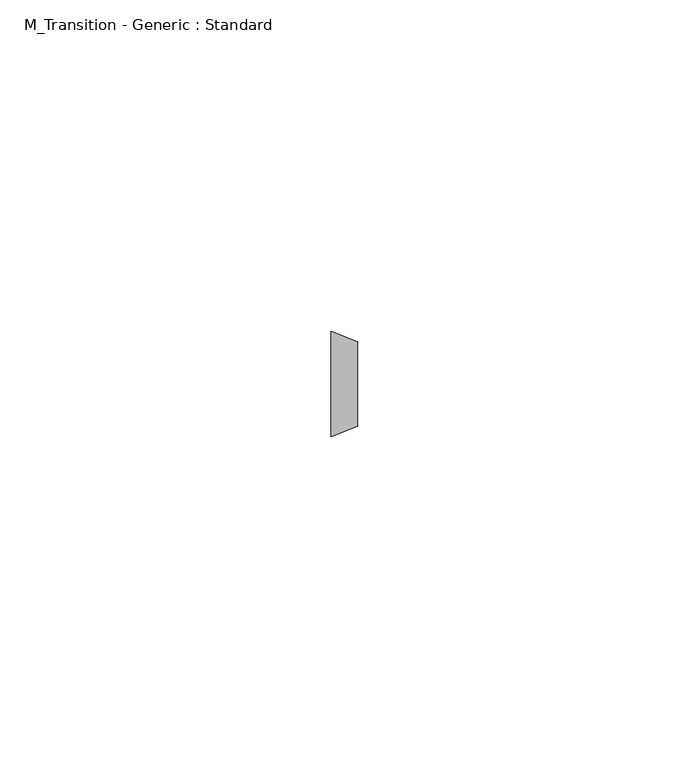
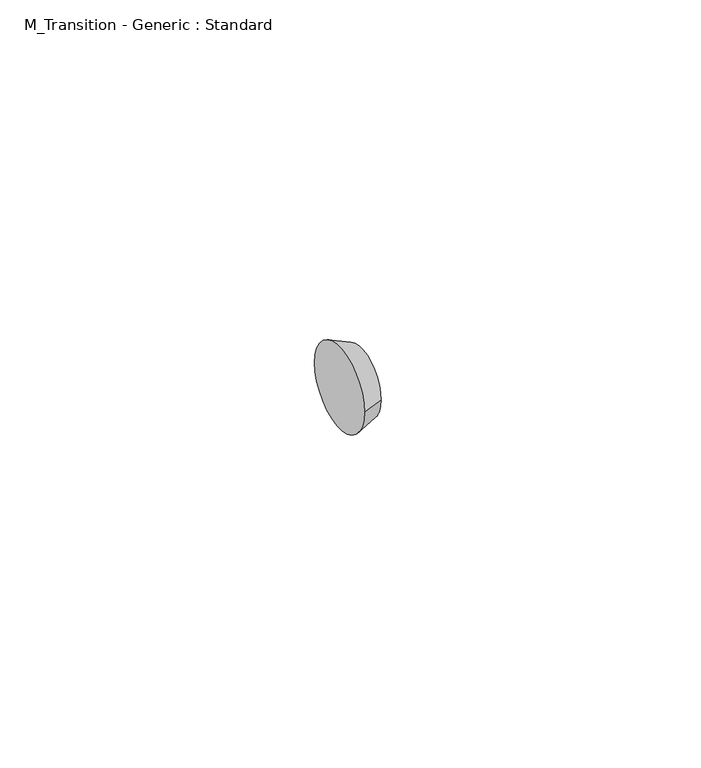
"""IFC4 building model written with IfcOpenShell, lengths in millimetres: pipe fitting geometry, M_Transition - Generic : Standard."""

from ifc_helpers import new_model, si_unit, frame, origin, place, context, project, spatial, polyline, circle_curve, source, transform, mapped, element, save
from ifc_brep_helpers import plane_surface, revolved_surface, advanced_brep


def m_transition_generic_standard_570aa73b(model_context):
    return source(origin(), model_context, "Body", "AdvancedBrep", [
        advanced_brep(
        [(3.96875, -6.3375, 0.0), (3.96875, 6.3375, 0.0), (0.0, -7.9375, 0.0), (0.0, 7.9375, 0.0)],
        [
            (0, 1, circle_curve(frame((3.96875, 0.0, 0.0), z_axis=(1.0, -1.091393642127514e-12, 1.4029942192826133e-12), x_axis=(-1.0914943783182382e-12, -1.0, 0.0)), 6.3375)),
            (1, 0, circle_curve(frame((3.96875, 0.0, 0.0), z_axis=(1.0, -1.091393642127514e-12, 1.4029942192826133e-12), x_axis=(1.0914943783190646e-12, 1.0, 0.0)), 6.3375)),
            (2, 3, circle_curve(frame((0.0, 0.0, 0.0), z_axis=(-1.0, 1.091393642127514e-12, -1.4029942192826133e-12), x_axis=(1.0914943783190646e-12, 1.0, 0.0)), 7.9375)),
            (3, 2, circle_curve(frame((0.0, 0.0, 0.0), z_axis=(-1.0, 1.091393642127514e-12, -1.4029942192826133e-12), x_axis=(-1.0914943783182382e-12, -1.0, 0.0)), 7.9375)),
            (3, 1),
            (0, 2),
        ],
        [
            plane_surface(frame((3.96875, 0.0, 0.0), z_axis=(1.0, 0.0, 0.0), x_axis=(0.0, 0.0, -1.0))),
            plane_surface(frame((0.0, 0.0, 0.0), z_axis=(-1.0, 0.0, 0.0), x_axis=(0.0, 0.0, -1.0))),
            revolved_surface(polyline([(3.9687500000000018, -6.337499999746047, 0.0), (-1.7319479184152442e-11, -7.937500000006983, 0.0)]), (19.6887207, 0.0, 0.0), (-1.0, 1.091393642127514e-12, -1.4029942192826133e-12)),
            revolved_surface(polyline([(3.9687500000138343, 6.33749999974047, 0.0), (0.0, 7.9375, 0.0)]), (19.6887207, 0.0, 0.0), (-1.0, 1.091393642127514e-12, -1.4029942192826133e-12)),
        ],
        [
            (0, [[1, 2]]),
            (1, [[3, 4]]),
            (2, [[-4, 5, -1, 6]]),
            (3, [[-3, -6, -2, -5]]),
        ],
    ),
    ])


if __name__ == "__main__":
    model = new_model("IFC4")
    model_context = context("Model", 3, world=origin())
    ifc_project = project(units=[si_unit("LENGTHUNIT", "METRE", prefix="MILLI")], contexts=[model_context])
    site = spatial("IfcSite", under=ifc_project)
    building = spatial("IfcBuilding", under=site)
    placement = place(None, origin())
    m_transition_generic_standard_shape = m_transition_generic_standard_570aa73b(model_context)
    element("IfcPipeFitting", 1, ObjectType="M_Transition - Generic : Standard", at=placement, inside=building, context=model_context, shape_type="MappedRepresentation", body=[
        mapped(m_transition_generic_standard_shape, transform((0.0, 0.0, 0.0), x_axis=(1.0, 0.0, 0.0), y_axis=(0.0, 1.0, 0.0), z_axis=(0.0, 0.0, 1.0))),
    ])
    save(model, "model.ifc")
